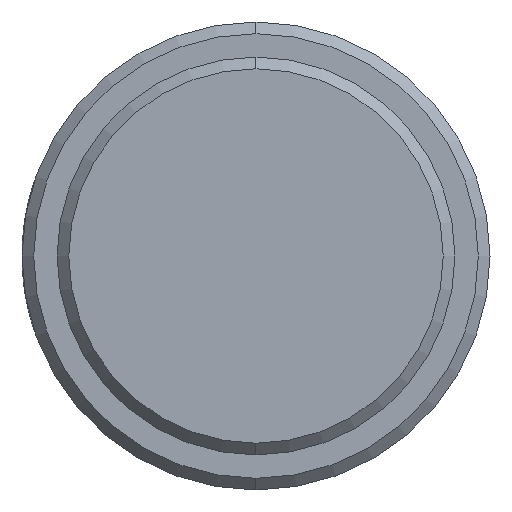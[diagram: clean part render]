
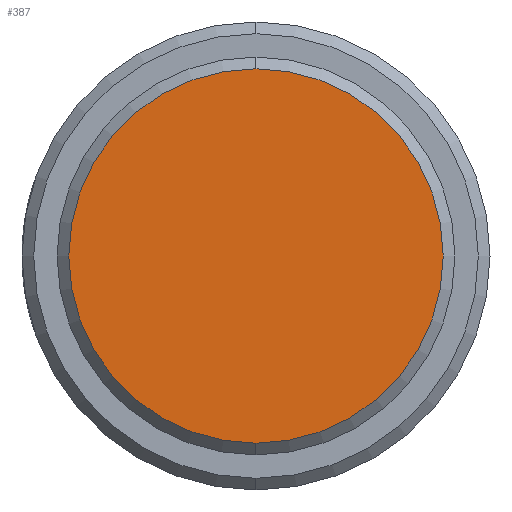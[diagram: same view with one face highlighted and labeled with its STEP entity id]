
A CAD part, left-side view. The second image highlights one B-rep face of the part: STEP entity #387.
In plain terms, the highlighted planar face has unit normal (-1, 0, 0).
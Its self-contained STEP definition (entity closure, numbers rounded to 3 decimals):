
#27 = CIRCLE ( 'NONE', #539, 8. ) ;
#34 = PLANE ( 'NONE',  #575 ) ;
#72 = VERTEX_POINT ( 'NONE', #369 ) ;
#100 = DIRECTION ( 'NONE',  ( 0., 0., 1. ) ) ;
#178 = DIRECTION ( 'NONE',  ( -1., 0., 0. ) ) ;
#200 = DIRECTION ( 'NONE',  ( -1., 0., 0. ) ) ;
#249 = CARTESIAN_POINT ( 'NONE',  ( 0., 0., 0. ) ) ;
#263 = CARTESIAN_POINT ( 'NONE',  ( 0., 0., 0. ) ) ;
#270 = DIRECTION ( 'NONE',  ( 0., 0., 1. ) ) ;
#307 = VERTEX_POINT ( 'NONE', #569 ) ;
#369 = CARTESIAN_POINT ( 'NONE',  ( 0., 0., 8. ) ) ;
#375 = ORIENTED_EDGE ( 'NONE', *, *, #450, .T. ) ;
#387 = ADVANCED_FACE ( 'NONE', ( #517 ), #34, .T. ) ;
#426 = DIRECTION ( 'NONE',  ( 0., 0., 1. ) ) ;
#450 = EDGE_CURVE ( 'NONE', #72, #307, #599, .T. ) ;
#464 = EDGE_LOOP ( 'NONE', ( #559, #375 ) ) ;
#482 = DIRECTION ( 'NONE',  ( -1., 0., 0. ) ) ;
#489 = EDGE_CURVE ( 'NONE', #307, #72, #27, .T. ) ;
#491 = AXIS2_PLACEMENT_3D ( 'NONE', #263, #178, #270 ) ;
#517 = FACE_OUTER_BOUND ( 'NONE', #464, .T. ) ;
#539 = AXIS2_PLACEMENT_3D ( 'NONE', #541, #482, #426 ) ;
#541 = CARTESIAN_POINT ( 'NONE',  ( 0., 0., 0. ) ) ;
#559 = ORIENTED_EDGE ( 'NONE', *, *, #489, .T. ) ;
#569 = CARTESIAN_POINT ( 'NONE',  ( 0., 0., -8. ) ) ;
#575 = AXIS2_PLACEMENT_3D ( 'NONE', #249, #200, #100 ) ;
#599 = CIRCLE ( 'NONE', #491, 8. ) ;
